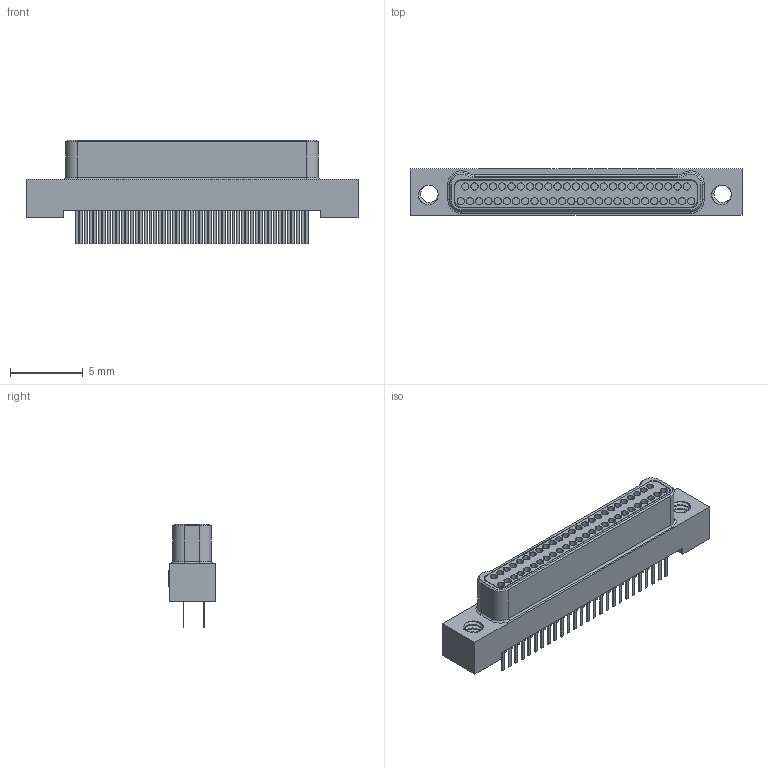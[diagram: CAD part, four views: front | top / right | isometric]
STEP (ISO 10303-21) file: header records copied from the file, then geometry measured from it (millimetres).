
FILE_DESCRIPTION (( 'STEP AP214' ), '1' );
FILE_NAME ('A28500-151 REV H.STEP', '2021-02-26T21:49:11', ( '' ), ( '' ), 'SwSTEP 2.0', 'SolidWorks 2019', '' );
FILE_SCHEMA (( 'AUTOMOTIVE_DESIGN' ));
Length unit declared in the file: inch
Products named in the file (1): A28500-151 REV H
Bounding box: 22.86 x 3.19 x 7.11 mm (x, y, z)
Volume: 221.7 mm3; surface area: 1078.4 mm2
Topology: 1 solids, 3 shells, 847 faces, 1997 edges, 1324 vertices
Faces by surface type: plane 515, cylinder 258, bspline 54, cone 14, torus 6
Entity records: 40860 total; most frequent: CARTESIAN_POINT 10383, ORIENTED_EDGE 3994, DIRECTION 3861, EDGE_CURVE 1997, LINE 1325, VECTOR 1325, VERTEX_POINT 1324, AXIS2_PLACEMENT_3D 1268
